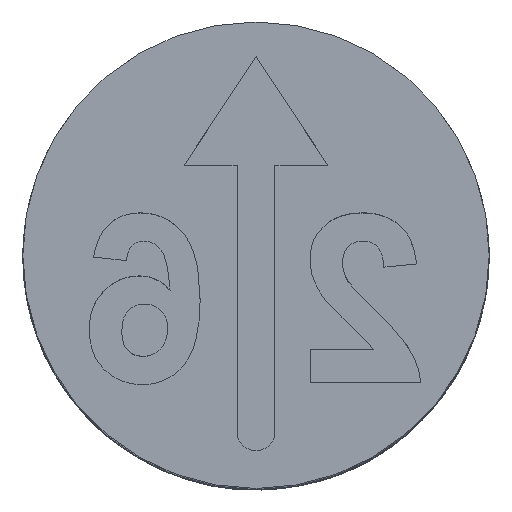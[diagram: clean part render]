
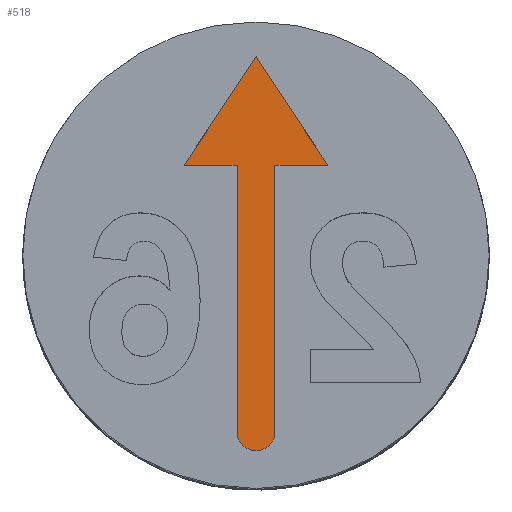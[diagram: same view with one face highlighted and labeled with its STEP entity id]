
A CAD part, top view. The second image highlights one B-rep face of the part: STEP entity #518.
In plain terms, the highlighted planar face has unit normal (0, 0, 1).
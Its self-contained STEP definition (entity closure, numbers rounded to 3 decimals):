
#73 = DIRECTION ( 'NONE',  ( 1., 0., 0. ) ) ;
#149 = ORIENTED_EDGE ( 'NONE', *, *, #2360, .T. ) ;
#152 = PLANE ( 'NONE',  #587 ) ;
#258 = ORIENTED_EDGE ( 'NONE', *, *, #2295, .T. ) ;
#308 = EDGE_CURVE ( 'NONE', #1357, #1143, #1512, .T. ) ;
#385 = DIRECTION ( 'NONE',  ( 0., 0., 1. ) ) ;
#413 = LINE ( 'NONE', #430, #3417 ) ;
#430 = CARTESIAN_POINT ( 'NONE',  ( -0.089, 0.425, -0.4 ) ) ;
#475 = DIRECTION ( 'NONE',  ( 0., 1., 0. ) ) ;
#500 = LINE ( 'NONE', #2842, #710 ) ;
#518 = ADVANCED_FACE ( 'NONE', ( #2780 ), #152, .T. ) ;
#587 = AXIS2_PLACEMENT_3D ( 'NONE', #3341, #385, #709 ) ;
#616 = EDGE_CURVE ( 'NONE', #1026, #2894, #500, .T. ) ;
#652 = AXIS2_PLACEMENT_3D ( 'NONE', #823, #2835, #3375 ) ;
#709 = DIRECTION ( 'NONE',  ( 1., 0., 0. ) ) ;
#710 = VECTOR ( 'NONE', #1103, 1000. ) ;
#735 = ORIENTED_EDGE ( 'NONE', *, *, #1033, .T. ) ;
#823 = CARTESIAN_POINT ( 'NONE',  ( 0., -0.833, -0.4 ) ) ;
#894 = LINE ( 'NONE', #2368, #3105 ) ;
#1026 = VERTEX_POINT ( 'NONE', #2276 ) ;
#1033 = EDGE_CURVE ( 'NONE', #2894, #3090, #3784, .T. ) ;
#1103 = DIRECTION ( 'NONE',  ( 0., -1., 0. ) ) ;
#1143 = VERTEX_POINT ( 'NONE', #2933 ) ;
#1181 = ORIENTED_EDGE ( 'NONE', *, *, #616, .T. ) ;
#1351 = CARTESIAN_POINT ( 'NONE',  ( 0.089, 0.425, -0.4 ) ) ;
#1353 = CARTESIAN_POINT ( 'NONE',  ( 0.089, -0.833, -0.4 ) ) ;
#1357 = VERTEX_POINT ( 'NONE', #2250 ) ;
#1386 = VERTEX_POINT ( 'NONE', #1351 ) ;
#1423 = ORIENTED_EDGE ( 'NONE', *, *, #308, .T. ) ;
#1512 = LINE ( 'NONE', #2668, #1869 ) ;
#1724 = ORIENTED_EDGE ( 'NONE', *, *, #2171, .T. ) ;
#1820 = ORIENTED_EDGE ( 'NONE', *, *, #3095, .T. ) ;
#1869 = VECTOR ( 'NONE', #2026, 1000. ) ;
#2026 = DIRECTION ( 'NONE',  ( -0.55, -0.835, 0. ) ) ;
#2073 = DIRECTION ( 'NONE',  ( -0.55, 0.835, 0. ) ) ;
#2112 = LINE ( 'NONE', #3298, #2237 ) ;
#2171 = EDGE_CURVE ( 'NONE', #1386, #2213, #894, .T. ) ;
#2213 = VERTEX_POINT ( 'NONE', #2969 ) ;
#2237 = VECTOR ( 'NONE', #2073, 1000. ) ;
#2250 = CARTESIAN_POINT ( 'NONE',  ( 0., 0.938, -0.4 ) ) ;
#2276 = CARTESIAN_POINT ( 'NONE',  ( -0.089, 0.425, -0.4 ) ) ;
#2295 = EDGE_CURVE ( 'NONE', #2213, #1357, #2112, .T. ) ;
#2353 = VECTOR ( 'NONE', #475, 1000. ) ;
#2360 = EDGE_CURVE ( 'NONE', #1143, #1026, #413, .T. ) ;
#2368 = CARTESIAN_POINT ( 'NONE',  ( 0.089, 0.425, -0.4 ) ) ;
#2520 = LINE ( 'NONE', #3392, #2353 ) ;
#2546 = EDGE_LOOP ( 'NONE', ( #1724, #258, #1423, #149, #1181, #735, #1820 ) ) ;
#2668 = CARTESIAN_POINT ( 'NONE',  ( -0.338, 0.425, -0.4 ) ) ;
#2684 = CARTESIAN_POINT ( 'NONE',  ( -0.089, -0.833, -0.4 ) ) ;
#2780 = FACE_OUTER_BOUND ( 'NONE', #2546, .T. ) ;
#2835 = DIRECTION ( 'NONE',  ( 0., 0., 1. ) ) ;
#2842 = CARTESIAN_POINT ( 'NONE',  ( -0.089, -0.833, -0.4 ) ) ;
#2894 = VERTEX_POINT ( 'NONE', #2684 ) ;
#2933 = CARTESIAN_POINT ( 'NONE',  ( -0.338, 0.425, -0.4 ) ) ;
#2969 = CARTESIAN_POINT ( 'NONE',  ( 0.338, 0.425, -0.4 ) ) ;
#3041 = DIRECTION ( 'NONE',  ( 1., 0., 0. ) ) ;
#3090 = VERTEX_POINT ( 'NONE', #1353 ) ;
#3095 = EDGE_CURVE ( 'NONE', #3090, #1386, #2520, .T. ) ;
#3105 = VECTOR ( 'NONE', #73, 1000. ) ;
#3298 = CARTESIAN_POINT ( 'NONE',  ( 0.338, 0.425, -0.4 ) ) ;
#3341 = CARTESIAN_POINT ( 'NONE',  ( 0., -0.833, -0.4 ) ) ;
#3375 = DIRECTION ( 'NONE',  ( 1., 0., 0. ) ) ;
#3392 = CARTESIAN_POINT ( 'NONE',  ( 0.089, -0.833, -0.4 ) ) ;
#3417 = VECTOR ( 'NONE', #3041, 1000. ) ;
#3784 = CIRCLE ( 'NONE', #652, 0.089 ) ;
